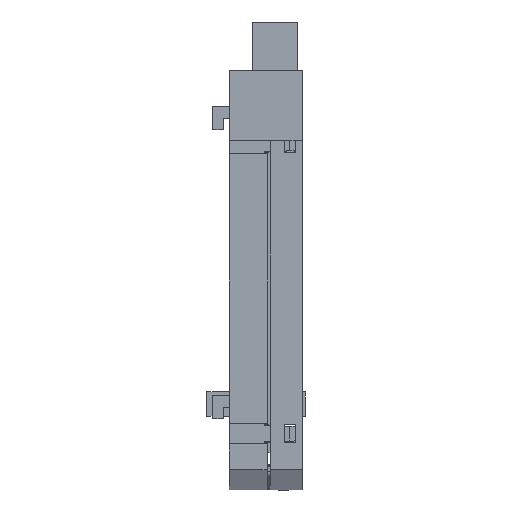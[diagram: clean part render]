
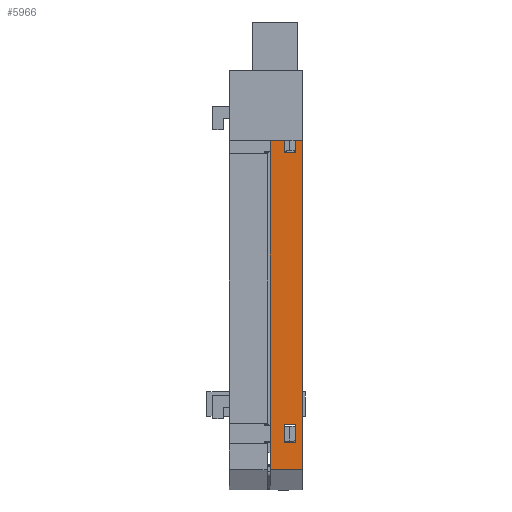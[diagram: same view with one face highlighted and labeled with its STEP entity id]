
A CAD part, front view. The second image highlights one B-rep face of the part: STEP entity #5966.
In plain terms, the highlighted planar face has unit normal (0, -1, 0).
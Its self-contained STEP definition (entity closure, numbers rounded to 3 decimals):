
#165 = ORIENTED_EDGE ( 'NONE', *, *, #22877, .T. ) ;
#338 = FACE_OUTER_BOUND ( 'NONE', #19170, .T. ) ;
#530 = CARTESIAN_POINT ( 'NONE',  ( 4.4, 0., -10.945 ) ) ;
#554 = DIRECTION ( 'NONE',  ( 0., 0., -1. ) ) ;
#719 = VERTEX_POINT ( 'NONE', #16900 ) ;
#757 = LINE ( 'NONE', #32519, #8711 ) ;
#1307 = FACE_BOUND ( 'NONE', #27612, .T. ) ;
#1614 = ORIENTED_EDGE ( 'NONE', *, *, #16819, .T. ) ;
#1792 = CARTESIAN_POINT ( 'NONE',  ( 4.4, 0., -60.645 ) ) ;
#2276 = EDGE_CURVE ( 'NONE', #14747, #36705, #30680, .T. ) ;
#3335 = CARTESIAN_POINT ( 'NONE',  ( 4.4, 0., -7.845 ) ) ;
#3587 = VECTOR ( 'NONE', #32871, 1000. ) ;
#3606 = VECTOR ( 'NONE', #29648, 1000. ) ;
#3828 = LINE ( 'NONE', #19643, #26717 ) ;
#4409 = VERTEX_POINT ( 'NONE', #8183 ) ;
#4527 = LINE ( 'NONE', #9081, #3587 ) ;
#4636 = EDGE_CURVE ( 'NONE', #25491, #27365, #21035, .T. ) ;
#4958 = CARTESIAN_POINT ( 'NONE',  ( 5.5, 0., -65.25 ) ) ;
#4981 = VERTEX_POINT ( 'NONE', #17145 ) ;
#5003 = ORIENTED_EDGE ( 'NONE', *, *, #33210, .T. ) ;
#5277 = EDGE_CURVE ( 'NONE', #5916, #4409, #5588, .T. ) ;
#5588 = LINE ( 'NONE', #33600, #35433 ) ;
#5614 = LINE ( 'NONE', #4958, #14485 ) ;
#5916 = VERTEX_POINT ( 'NONE', #29922 ) ;
#5966 = ADVANCED_FACE ( 'NONE', ( #17211, #1307, #338 ), #33463, .F. ) ;
#6186 = VECTOR ( 'NONE', #18811, 1000. ) ;
#6551 = DIRECTION ( 'NONE',  ( 0., 1., 0. ) ) ;
#7548 = ORIENTED_EDGE ( 'NONE', *, *, #4636, .T. ) ;
#7761 = VECTOR ( 'NONE', #29706, 1000. ) ;
#7981 = EDGE_LOOP ( 'NONE', ( #5003, #19848, #7548, #22932 ) ) ;
#8183 = CARTESIAN_POINT ( 'NONE',  ( 0., 0., 0. ) ) ;
#8711 = VECTOR ( 'NONE', #11572, 1000. ) ;
#9081 = CARTESIAN_POINT ( 'NONE',  ( 2.4, 0., -60.645 ) ) ;
#9531 = CARTESIAN_POINT ( 'NONE',  ( 5.5, 0., 0. ) ) ;
#10137 = LINE ( 'NONE', #14824, #32095 ) ;
#10461 = VECTOR ( 'NONE', #25611, 1000. ) ;
#11012 = ORIENTED_EDGE ( 'NONE', *, *, #24892, .F. ) ;
#11572 = DIRECTION ( 'NONE',  ( 1., 0., 0. ) ) ;
#11713 = CARTESIAN_POINT ( 'NONE',  ( 5.5, 0., 0. ) ) ;
#12352 = EDGE_CURVE ( 'NONE', #16210, #31541, #5614, .T. ) ;
#12910 = VECTOR ( 'NONE', #38545, 1000. ) ;
#13235 = CARTESIAN_POINT ( 'NONE',  ( 5.5, 0., -65.25 ) ) ;
#14485 = VECTOR ( 'NONE', #25824, 1000. ) ;
#14747 = VERTEX_POINT ( 'NONE', #21543 ) ;
#14824 = CARTESIAN_POINT ( 'NONE',  ( 2.4, 0., -7.845 ) ) ;
#15567 = DIRECTION ( 'NONE',  ( 0., 0., 1. ) ) ;
#15698 = DIRECTION ( 'NONE',  ( -1., 0., 0. ) ) ;
#16210 = VERTEX_POINT ( 'NONE', #13235 ) ;
#16819 = EDGE_CURVE ( 'NONE', #4409, #31541, #30024, .T. ) ;
#16900 = CARTESIAN_POINT ( 'NONE',  ( 2.4, 0., -60.645 ) ) ;
#16972 = CARTESIAN_POINT ( 'NONE',  ( 0., 0., -65.25 ) ) ;
#17145 = CARTESIAN_POINT ( 'NONE',  ( 2.4, 0., -7.845 ) ) ;
#17211 = FACE_BOUND ( 'NONE', #7981, .T. ) ;
#17610 = CARTESIAN_POINT ( 'NONE',  ( 2.4, 0., -10.945 ) ) ;
#17804 = CARTESIAN_POINT ( 'NONE',  ( 4.4, 0., -60.645 ) ) ;
#18395 = LINE ( 'NONE', #22600, #10461 ) ;
#18811 = DIRECTION ( 'NONE',  ( 0., 0., -1. ) ) ;
#18978 = VERTEX_POINT ( 'NONE', #17610 ) ;
#19117 = ORIENTED_EDGE ( 'NONE', *, *, #5277, .T. ) ;
#19170 = EDGE_LOOP ( 'NONE', ( #1614, #37553, #11012, #19117 ) ) ;
#19643 = CARTESIAN_POINT ( 'NONE',  ( 2.4, 0., -10.945 ) ) ;
#19848 = ORIENTED_EDGE ( 'NONE', *, *, #21699, .T. ) ;
#21035 = LINE ( 'NONE', #36330, #35955 ) ;
#21543 = CARTESIAN_POINT ( 'NONE',  ( 4.4, 0., -57.545 ) ) ;
#21699 = EDGE_CURVE ( 'NONE', #4981, #25491, #10137, .T. ) ;
#22600 = CARTESIAN_POINT ( 'NONE',  ( 2.4, 0., -60.645 ) ) ;
#22643 = DIRECTION ( 'NONE',  ( -1., 0., 0. ) ) ;
#22877 = EDGE_CURVE ( 'NONE', #719, #37559, #18395, .T. ) ;
#22932 = ORIENTED_EDGE ( 'NONE', *, *, #27070, .T. ) ;
#23714 = CARTESIAN_POINT ( 'NONE',  ( 2.4, 0., -10.945 ) ) ;
#24892 = EDGE_CURVE ( 'NONE', #5916, #16210, #26488, .T. ) ;
#25491 = VERTEX_POINT ( 'NONE', #3335 ) ;
#25611 = DIRECTION ( 'NONE',  ( 0., 0., 1. ) ) ;
#25681 = ORIENTED_EDGE ( 'NONE', *, *, #2276, .T. ) ;
#25824 = DIRECTION ( 'NONE',  ( -1., 0., 0. ) ) ;
#26488 = LINE ( 'NONE', #11713, #3606 ) ;
#26717 = VECTOR ( 'NONE', #22643, 1000. ) ;
#27070 = EDGE_CURVE ( 'NONE', #27365, #18978, #3828, .T. ) ;
#27292 = CARTESIAN_POINT ( 'NONE',  ( 2.4, 0., -57.545 ) ) ;
#27365 = VERTEX_POINT ( 'NONE', #530 ) ;
#27556 = CARTESIAN_POINT ( 'NONE',  ( 0., 0., 0. ) ) ;
#27612 = EDGE_LOOP ( 'NONE', ( #32793, #165, #30260, #25681 ) ) ;
#28810 = LINE ( 'NONE', #23714, #12910 ) ;
#29648 = DIRECTION ( 'NONE',  ( 0., 0., -1. ) ) ;
#29706 = DIRECTION ( 'NONE',  ( 0., 0., -1. ) ) ;
#29922 = CARTESIAN_POINT ( 'NONE',  ( 5.5, 0., 0. ) ) ;
#30024 = LINE ( 'NONE', #27556, #6186 ) ;
#30260 = ORIENTED_EDGE ( 'NONE', *, *, #33166, .T. ) ;
#30680 = LINE ( 'NONE', #17804, #7761 ) ;
#31541 = VERTEX_POINT ( 'NONE', #16972 ) ;
#32095 = VECTOR ( 'NONE', #32597, 1000. ) ;
#32519 = CARTESIAN_POINT ( 'NONE',  ( 2.4, 0., -57.545 ) ) ;
#32597 = DIRECTION ( 'NONE',  ( 1., 0., 0. ) ) ;
#32793 = ORIENTED_EDGE ( 'NONE', *, *, #36986, .T. ) ;
#32871 = DIRECTION ( 'NONE',  ( -1., 0., 0. ) ) ;
#33166 = EDGE_CURVE ( 'NONE', #37559, #14747, #757, .T. ) ;
#33210 = EDGE_CURVE ( 'NONE', #18978, #4981, #28810, .T. ) ;
#33463 = PLANE ( 'NONE',  #33683 ) ;
#33600 = CARTESIAN_POINT ( 'NONE',  ( 5.5, 0., 0. ) ) ;
#33683 = AXIS2_PLACEMENT_3D ( 'NONE', #9531, #6551, #15567 ) ;
#35433 = VECTOR ( 'NONE', #15698, 1000. ) ;
#35955 = VECTOR ( 'NONE', #554, 1000. ) ;
#36330 = CARTESIAN_POINT ( 'NONE',  ( 4.4, 0., -10.945 ) ) ;
#36705 = VERTEX_POINT ( 'NONE', #1792 ) ;
#36986 = EDGE_CURVE ( 'NONE', #36705, #719, #4527, .T. ) ;
#37553 = ORIENTED_EDGE ( 'NONE', *, *, #12352, .F. ) ;
#37559 = VERTEX_POINT ( 'NONE', #27292 ) ;
#38545 = DIRECTION ( 'NONE',  ( 0., 0., 1. ) ) ;
